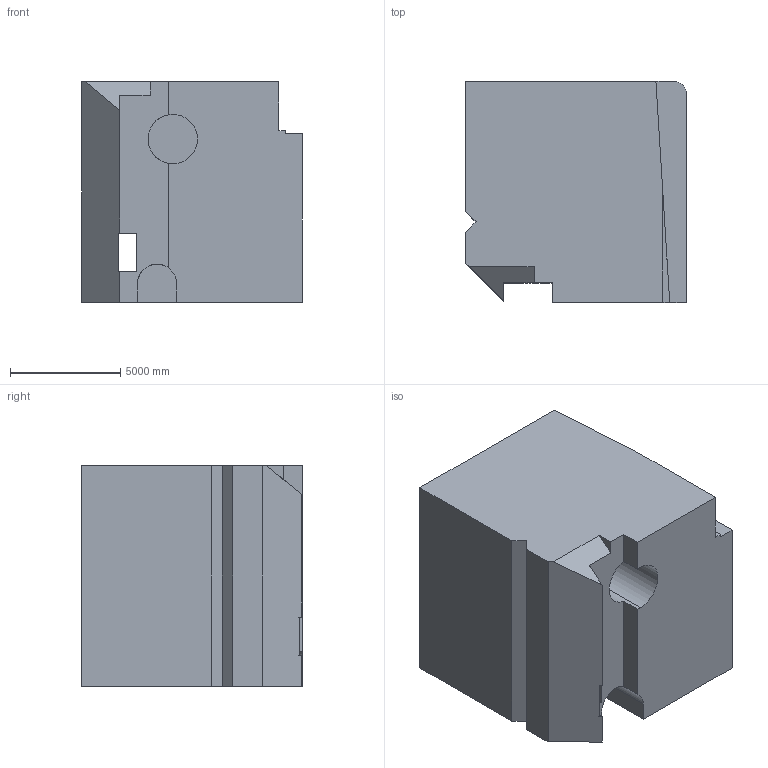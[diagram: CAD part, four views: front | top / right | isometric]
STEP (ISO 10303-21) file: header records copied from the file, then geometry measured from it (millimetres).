
FILE_DESCRIPTION (( 'STEP AP203' ), '1' );
FILE_NAME ('199.STEP', '2022-09-06T15:31:05', ( 'user' ), ( '' ), 'SwSTEP 2.0', 'SolidWorks 2021', '' );
FILE_SCHEMA (( 'CONFIG_CONTROL_DESIGN' ));
Length unit declared in the file: centimetre
Products named in the file (1): 199
Bounding box: 10000 x 10000 x 10000 mm (x, y, z)
Volume: 882704306829.2 mm3; surface area: 694166184.2 mm2
Topology: 1 solids, 1 shells, 33 faces, 96 edges, 64 vertices
Faces by surface type: plane 29, cylinder 4
Entity records: 1162 total; most frequent: CARTESIAN_POINT 194, ORIENTED_EDGE 192, DIRECTION 175, EDGE_CURVE 96, LINE 85, VECTOR 85, VERTEX_POINT 64, AXIS2_PLACEMENT_3D 45
